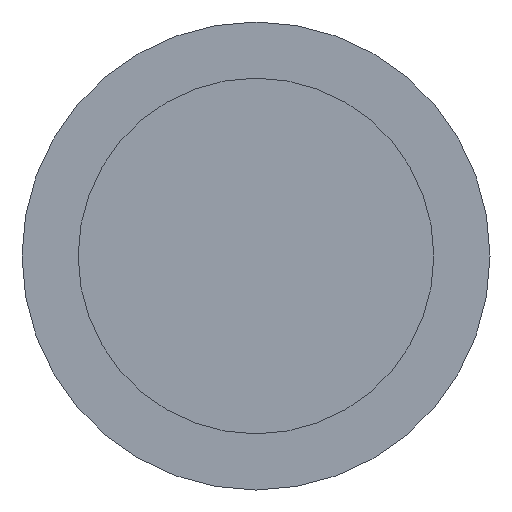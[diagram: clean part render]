
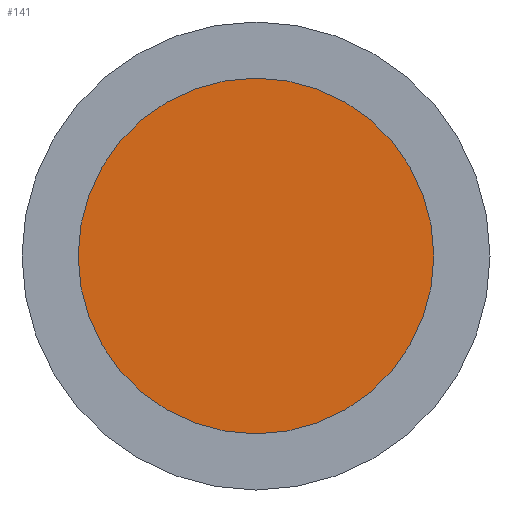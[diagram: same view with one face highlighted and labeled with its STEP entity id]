
A CAD part, front view. The second image highlights one B-rep face of the part: STEP entity #141.
In plain terms, the highlighted planar face has unit normal (0, -1, 0).
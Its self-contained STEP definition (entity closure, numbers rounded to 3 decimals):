
#20=PLANE('',#180);
#35=FACE_OUTER_BOUND('',#45,.T.);
#45=EDGE_LOOP('',(#110));
#58=CIRCLE('',#178,950.);
#72=VERTEX_POINT('',#262);
#86=EDGE_CURVE('',#72,#72,#58,.T.);
#110=ORIENTED_EDGE('',*,*,#86,.F.);
#141=ADVANCED_FACE('',(#35),#20,.F.);
#178=AXIS2_PLACEMENT_3D('',#264,#212,#213);
#180=AXIS2_PLACEMENT_3D('',#266,#216,#217);
#212=DIRECTION('center_axis',(0.,1.,0.));
#213=DIRECTION('ref_axis',(-1.,0.,0.));
#216=DIRECTION('center_axis',(0.,1.,0.));
#217=DIRECTION('ref_axis',(0.,0.,1.));
#262=CARTESIAN_POINT('',(950.,0.,0.));
#264=CARTESIAN_POINT('Origin',(0.,0.,0.));
#266=CARTESIAN_POINT('Origin',(0.,0.,0.));
